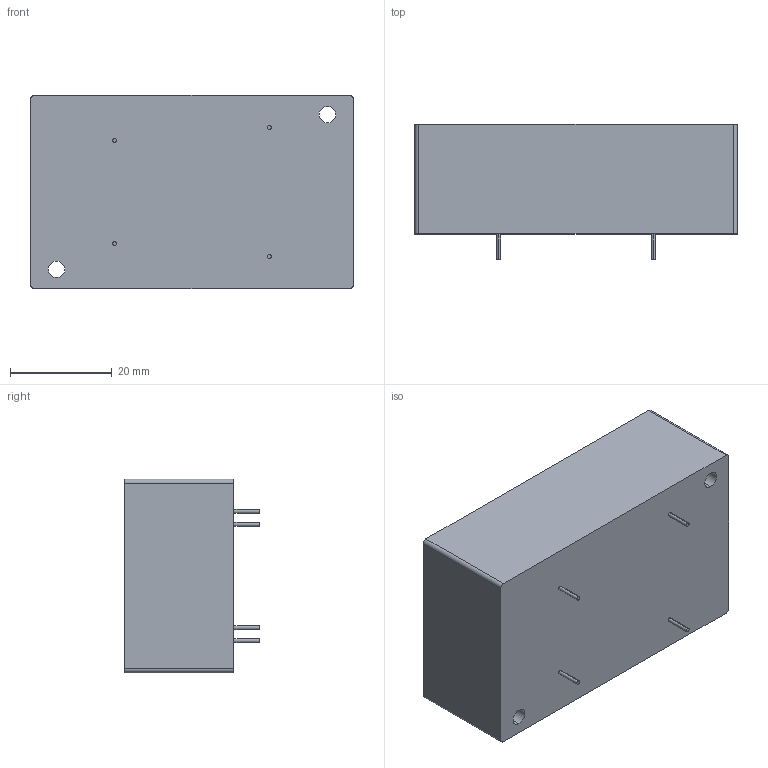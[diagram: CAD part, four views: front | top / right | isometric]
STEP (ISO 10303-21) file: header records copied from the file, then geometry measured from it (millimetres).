
FILE_DESCRIPTION (( 'STEP AP214' ), '1' );
FILE_NAME ('E02-E60.STEP', '2017-10-17T16:14:03', ( '' ), ( '' ), 'SwSTEP 2.0', 'SolidWorks 2017', '' );
FILE_SCHEMA (( 'AUTOMOTIVE_DESIGN' ));
Length unit declared in the file: inch
Products named in the file (1): E02-E60
Bounding box: 63.5 x 26.67 x 38.1 mm (x, y, z)
Volume: 51868.8 mm3; surface area: 9657.6 mm2
Topology: 1 solids, 1 shells, 26 faces, 60 edges, 40 vertices
Faces by surface type: cylinder 16, plane 10
Entity records: 1142 total; most frequent: DIRECTION 146, CARTESIAN_POINT 127, ORIENTED_EDGE 120, EDGE_CURVE 60, AXIS2_PLACEMENT_3D 59, VERTEX_POINT 40, EDGE_LOOP 34, CIRCLE 32
